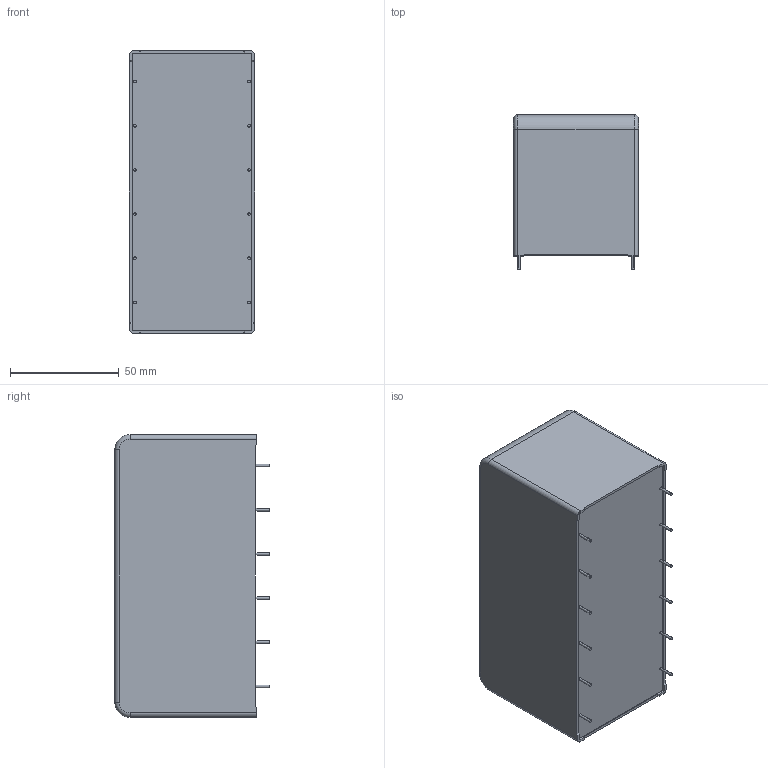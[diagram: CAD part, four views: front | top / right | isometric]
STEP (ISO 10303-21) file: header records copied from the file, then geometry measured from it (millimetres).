
FILE_DESCRIPTION (( 'STEP AP203' ), '1' );
FILE_NAME ('DC_Link_130x65x57.5_12pins.step', '2017-04-03T15:59:42', ( 'work' ), ( 'Hewlett-Packard Company' ), 'SwSTEP 2.0', 'SolidWorks 2017', '' );
FILE_SCHEMA (( 'CONFIG_CONTROL_DESIGN' ));
Length unit declared in the file: millimetre
Products named in the file (1): DC_Link_130x65x57.5_12pins
Bounding box: 57.5 x 71 x 130 mm (x, y, z)
Volume: 477094.6 mm3; surface area: 38842 mm2
Topology: 1 solids, 1 shells, 146 faces, 367 edges, 242 vertices
Faces by surface type: plane 90, cylinder 36, bspline 16, torus 4
Entity records: 5132 total; most frequent: CARTESIAN_POINT 1580, ORIENTED_EDGE 734, DIRECTION 673, EDGE_CURVE 367, LINE 259, VECTOR 259, VERTEX_POINT 242, AXIS2_PLACEMENT_3D 207
